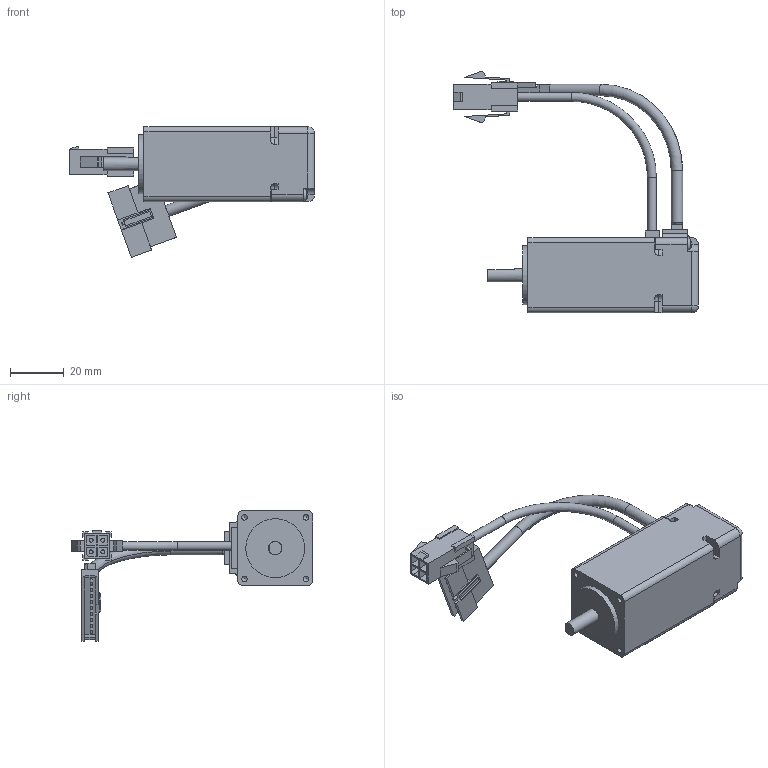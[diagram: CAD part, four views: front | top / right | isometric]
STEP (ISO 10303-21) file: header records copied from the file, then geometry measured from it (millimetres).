
FILE_DESCRIPTION(/* description */ (''),/* implementation_level */ '2;1');
FILE_NAME(/* name */ '\\EMN0D5F01\rp_inventor\RP Mechanical Design\Wiley\Updated Models\eCLM-S113F.stp',/* time_stamp */ '2016-10-27T15:33:24-07:00',/* author */ ('JDB'),/* organization */ ('Parker Hannifin Corp'),/* preprocessor_version */ 'ST-DEVELOPER v15.2',/* originating_system */ 'Autodesk Inventor 2014',/* authorisation */ '');
FILE_SCHEMA (('CONFIG_CONTROL_DESIGN'));
Length unit declared in the file: inch
Products named in the file (1): eCLM-S113F_sw
Bounding box: 91.38 x 90.11 x 48.79 mm (x, y, z)
Volume: 50876.1 mm3; surface area: 20687.7 mm2
Topology: 1 solids, 1 shells, 468 faces, 1197 edges, 759 vertices
Faces by surface type: plane 296, cylinder 112, cone 35, sphere 10, bspline 8, torus 7
Full cylindrical faces by diameter (mm): 1 x10, 1.5 x4, 1.75 x2, 2.05 x6, 2.3 x2, 2.5 x2, 2.6 x4, 3.3 x2, 4 x1, 4.3 x2, 5 x4, 5.5 x1, 6 x1, 9.2 x1, 17.5 x1, 22 x1
Entity records: 13582 total; most frequent: CARTESIAN_POINT 2532, DIRECTION 2324, ORIENTED_EDGE 2174, EDGE_CURVE 1087, AXIS2_PLACEMENT_3D 799, VERTEX_POINT 731, LINE 726, VECTOR 726
